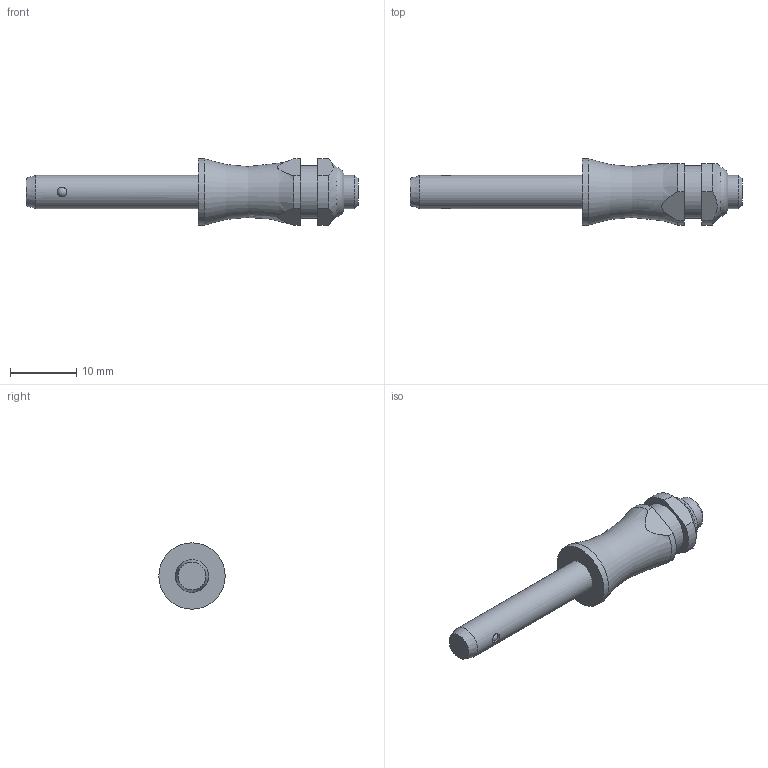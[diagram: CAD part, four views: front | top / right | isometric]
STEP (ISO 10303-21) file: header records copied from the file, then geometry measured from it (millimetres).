
FILE_DESCRIPTION( ( 'STEP AP203' ), '1' );
FILE_NAME( 'C:/Temp/Ganter_Step_05_03_2020/data/3_1/gn113_3/Stainless Steel-Ball lock pin GN 113.3-5-20 (activated).stp', '2020-03-12T08:18:09', ( 'License CC BY-ND 4.0' ), ( 'CADENAS' ), ' ', 'PARTsolutions', ' ' );
FILE_SCHEMA( ( 'CONFIG_CONTROL_DESIGN' ) );
Length unit declared in the file: millimetre
Products named in the file (1): _Stainless Steel-Ball lock pin GN 113.3-5-20 (activated)
Bounding box: 50.15 x 10 x 10 mm (x, y, z)
Volume: 1803.8 mm3; surface area: 1203.7 mm2
Topology: 1 solids, 1 shells, 31 faces, 73 edges, 46 vertices
Faces by surface type: plane 12, cylinder 12, cone 3, torus 2, sphere 2
Full cylindrical faces by diameter (mm): 1.5 x2, 5 x2, 7.9 x1, 10 x1
Entity records: 954 total; most frequent: CARTESIAN_POINT 290, DIRECTION 134, ORIENTED_EDGE 104, AXIS2_PLACEMENT_3D 58, EDGE_CURVE 52, EDGE_LOOP 48, VERTEX_POINT 40, FACE_OUTER_BOUND 39
